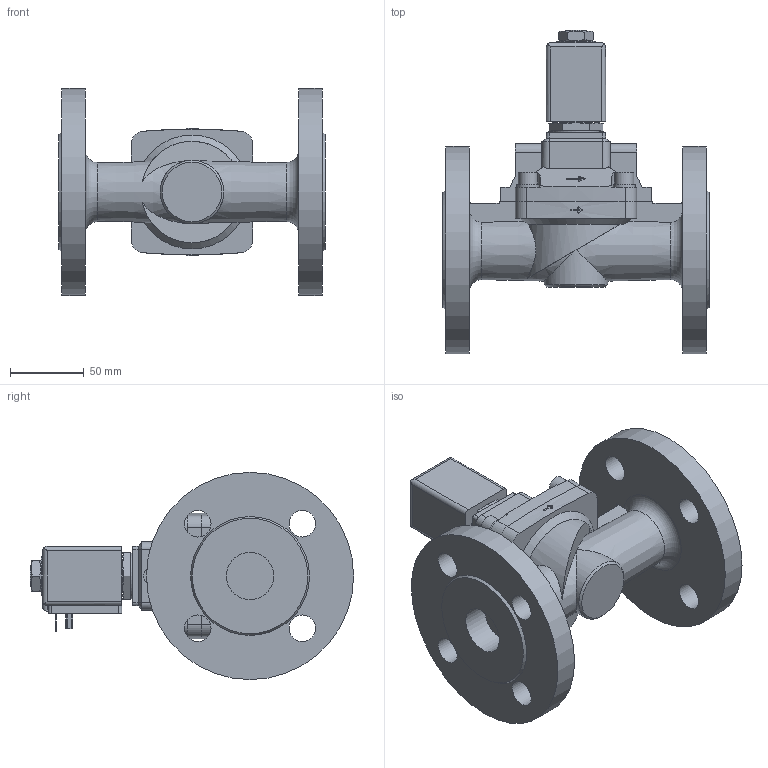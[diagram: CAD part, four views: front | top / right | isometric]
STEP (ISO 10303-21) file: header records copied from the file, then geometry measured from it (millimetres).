
FILE_DESCRIPTION(/* description */ ('STEP AP214'),/* implementation_level */ '2;1');
FILE_NAME(/* name */ '5404-363040-Servo-assisted_2_2_way_piston_valve',/* time_stamp */ '2024-02-29T14:55:22+01:00',/* author */ ('License CC BY-ND 4.0'),/* organization */ ('CADENAS'),/* preprocessor_version */ 'ST-DEVELOPER v19.3',/* originating_system */ 'PARTsolutions',/* authorisation */ ' ');
FILE_SCHEMA (('AUTOMOTIVE_DESIGN {1 0 10303 214 3 1 1}'));
Length unit declared in the file: millimetre
Products named in the file (4): 5404-363040-Servo-assisted 2/2 way piston valve; 5282g-FD0132VA100-2/2-Wege-Magnetventil_Gehaeuse; 5282d-32MSAZ4N-2/2-Wege-Magnetventil_Deckel; 6213sp 40 Plan 40
Assembly tree (3 placements, depth 2):
  5404-363040-Servo-assisted 2/2 way piston valve
    5282g-FD0132VA100-2/2-Wege-Magnetventil_Gehaeuse
    5282d-32MSAZ4N-2/2-Wege-Magnetventil_Deckel
    6213sp 40 Plan 40
Bounding box: 180 x 218.45 x 140 mm (x, y, z)
Volume: 1064704.6 mm3; surface area: 154287.1 mm2
Topology: 3 solids, 3 shells, 288 faces, 742 edges, 487 vertices
Faces by surface type: plane 167, cylinder 100, cone 19, torus 2
Full cylindrical faces by diameter (mm): 2.45 x1, 13 x4, 14 x1, 14.8 x4, 18 x8, 18.5 x1, 25.9 x1, 31.5 x1, 32 x2, 43 x1, 140 x2
Entity records: 9331 total; most frequent: CARTESIAN_POINT 1770, DIRECTION 1462, ORIENTED_EDGE 1396, EDGE_CURVE 698, AXIS2_PLACEMENT_3D 530, VERTEX_POINT 474, LINE 402, VECTOR 402
